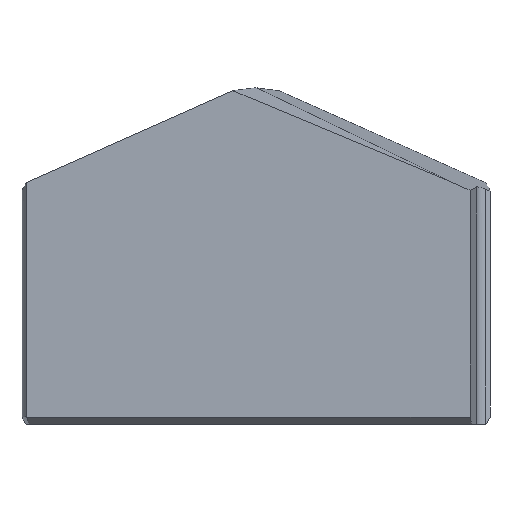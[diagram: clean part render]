
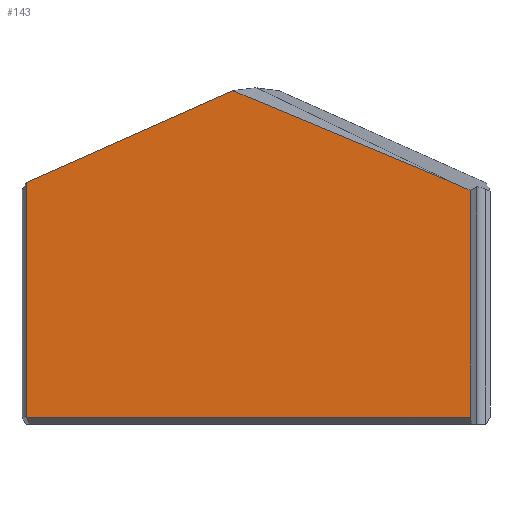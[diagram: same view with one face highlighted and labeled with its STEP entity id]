
A CAD part, top view. The second image highlights one B-rep face of the part: STEP entity #143.
In plain terms, the highlighted planar face has unit normal (0, 0, 1).
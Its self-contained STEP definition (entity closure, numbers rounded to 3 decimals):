
#10 = VECTOR ( 'NONE', #317, 1000. ) ;
#15 = CARTESIAN_POINT ( 'NONE',  ( 9.07, 9.906, 4. ) ) ;
#27 = CARTESIAN_POINT ( 'NONE',  ( 0., 14.56, 4. ) ) ;
#32 = VERTEX_POINT ( 'NONE', #443 ) ;
#54 = DIRECTION ( 'NONE',  ( 1., 0., 0. ) ) ;
#66 = VECTOR ( 'NONE', #211, 1000. ) ;
#71 = EDGE_CURVE ( 'NONE', #217, #32, #636, .T. ) ;
#85 = ORIENTED_EDGE ( 'NONE', *, *, #267, .T. ) ;
#93 = ORIENTED_EDGE ( 'NONE', *, *, #191, .T. ) ;
#130 = LINE ( 'NONE', #510, #481 ) ;
#143 = ADVANCED_FACE ( 'NONE', ( #369 ), #539, .T. ) ;
#149 = CARTESIAN_POINT ( 'NONE',  ( -9.716, 0., 4. ) ) ;
#151 = CARTESIAN_POINT ( 'NONE',  ( -9.71, 0.289, 4. ) ) ;
#154 = VERTEX_POINT ( 'NONE', #254 ) ;
#160 = EDGE_CURVE ( 'NONE', #217, #338, #265, .T. ) ;
#176 = DIRECTION ( 'NONE',  ( -0.923, 0.385, 0. ) ) ;
#178 = AXIS2_PLACEMENT_3D ( 'NONE', #500, #354, #345 ) ;
#191 = EDGE_CURVE ( 'NONE', #193, #342, #403, .T. ) ;
#193 = VERTEX_POINT ( 'NONE', #15 ) ;
#205 = EDGE_LOOP ( 'NONE', ( #93, #442, #294, #506, #605, #85, #348 ) ) ;
#207 = CARTESIAN_POINT ( 'NONE',  ( 5.181, 11.638, 4. ) ) ;
#209 = VECTOR ( 'NONE', #364, 1000. ) ;
#211 = DIRECTION ( 'NONE',  ( 0., 1., 0. ) ) ;
#217 = VERTEX_POINT ( 'NONE', #513 ) ;
#224 = EDGE_CURVE ( 'NONE', #243, #193, #440, .T. ) ;
#238 = LINE ( 'NONE', #27, #339 ) ;
#243 = VERTEX_POINT ( 'NONE', #312 ) ;
#254 = CARTESIAN_POINT ( 'NONE',  ( -0.976, 14.125, 4. ) ) ;
#265 = LINE ( 'NONE', #149, #209 ) ;
#267 = EDGE_CURVE ( 'NONE', #32, #243, #130, .T. ) ;
#294 = ORIENTED_EDGE ( 'NONE', *, *, #612, .T. ) ;
#302 = CARTESIAN_POINT ( 'NONE',  ( -9.716, 0.3, 4. ) ) ;
#312 = CARTESIAN_POINT ( 'NONE',  ( 9.07, 0.289, 4. ) ) ;
#317 = DIRECTION ( 'NONE',  ( -0.914, 0.407, 0. ) ) ;
#319 = EDGE_CURVE ( 'NONE', #342, #154, #622, .T. ) ;
#332 = CARTESIAN_POINT ( 'NONE',  ( 4.878, 11.681, 4. ) ) ;
#338 = VERTEX_POINT ( 'NONE', #376 ) ;
#339 = VECTOR ( 'NONE', #596, 1000. ) ;
#342 = VERTEX_POINT ( 'NONE', #517 ) ;
#345 = DIRECTION ( 'NONE',  ( 1., 0., 0. ) ) ;
#348 = ORIENTED_EDGE ( 'NONE', *, *, #224, .T. ) ;
#354 = DIRECTION ( 'NONE',  ( 0., 0., 1. ) ) ;
#364 = DIRECTION ( 'NONE',  ( 0., 1., 0. ) ) ;
#369 = FACE_OUTER_BOUND ( 'NONE', #205, .T. ) ;
#376 = CARTESIAN_POINT ( 'NONE',  ( -9.716, 10.234, 4. ) ) ;
#393 = VECTOR ( 'NONE', #176, 1000. ) ;
#403 = LINE ( 'NONE', #207, #10 ) ;
#440 = LINE ( 'NONE', #589, #66 ) ;
#442 = ORIENTED_EDGE ( 'NONE', *, *, #319, .T. ) ;
#443 = CARTESIAN_POINT ( 'NONE',  ( -9.71, 0.289, 4. ) ) ;
#481 = VECTOR ( 'NONE', #54, 1000. ) ;
#500 = CARTESIAN_POINT ( 'NONE',  ( 0., 0., 4. ) ) ;
#506 = ORIENTED_EDGE ( 'NONE', *, *, #160, .F. ) ;
#510 = CARTESIAN_POINT ( 'NONE',  ( 9.539, 0.289, 4. ) ) ;
#513 = CARTESIAN_POINT ( 'NONE',  ( -9.716, 0.3, 4. ) ) ;
#517 = CARTESIAN_POINT ( 'NONE',  ( 8.208, 10.29, 4. ) ) ;
#539 = PLANE ( 'NONE',  #178 ) ;
#585 = CARTESIAN_POINT ( 'NONE',  ( -9.712, 0.292, 4. ) ) ;
#587 = CARTESIAN_POINT ( 'NONE',  ( -9.714, 0.296, 4. ) ) ;
#589 = CARTESIAN_POINT ( 'NONE',  ( 9.07, 0., 4. ) ) ;
#596 = DIRECTION ( 'NONE',  ( -0.914, -0.407, 0. ) ) ;
#605 = ORIENTED_EDGE ( 'NONE', *, *, #71, .T. ) ;
#612 = EDGE_CURVE ( 'NONE', #154, #338, #238, .T. ) ;
#622 = LINE ( 'NONE', #332, #393 ) ;
#636 = B_SPLINE_CURVE_WITH_KNOTS ( 'NONE', 3,
 ( #302, #587, #585, #151 ),
 .UNSPECIFIED., .F., .F.,
 ( 4, 4 ),
 ( 0., 0. ),
 .UNSPECIFIED. ) ;
